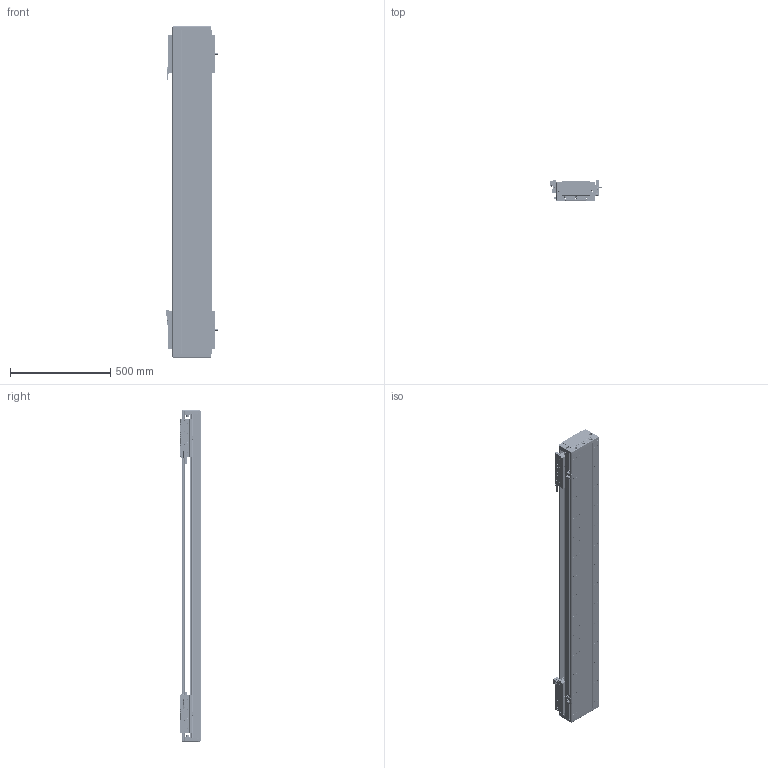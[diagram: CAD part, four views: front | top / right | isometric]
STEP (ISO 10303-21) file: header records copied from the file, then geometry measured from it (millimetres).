
FILE_DESCRIPTION (( 'STEP AP203' ), '1' );
FILE_NAME ('DA-C195-2-C2-T1160-C010-0.2 眻盄萇儂.STEP', '2025-08-14T02:03:10', ( '' ), ( '' ), 'SwSTEP 2.0', 'SolidWorks 2019', '' );
FILE_SCHEMA (( 'CONFIG_CONTROL_DESIGN' ));
Length unit declared in the file: millimetre
Products named in the file (16): IU-CU195-L-00 菁釱(L1620); MS200 棠掑喜S315-T240; DKW168-HXJ-ZJ-00 笢潔滅袉砎蝶; DA-C195-2-C2-T1160-C010-0.2 眻盄萇儂; CU195-C2賑輸-俋楷; PM-Y65嫖萇羲壽郪璃; DA195-DG-H-00  端盖（压铸镂空版）; PM-T45ㄗ侂狟ㄘ; LMT黍杅芛; 66156-0001-003-00 裔啣; 葩璃 DA95-GT-T-00; 66156-0001-005-00 光电感应片(默认); IU-CU195-L 菁釱絳寢; DKW-GYP-ZJ-00 笢潔嫖萇覜茼え; DKW-KGZ-ZJ-00 中间光电开关支架; DA95-HXJ-00 遣喳砎蝶
Assembly tree (28 placements, depth 3):
  DA-C195-2-C2-T1160-C010-0.2 眻盄萇儂
    IU-CU195-L 菁釱絳寢
      IU-CU195-L-00 菁釱(L1620)
      葩璃 DA95-GT-T-00  x4
    LMT黍杅芛  x2
    MS200 棠掑喜S315-T240
    PM-T45ㄗ侂狟ㄘ  x4
    66156-0001-005-00 光电感应片(默认)  x2
    DA195-DG-H-00  端盖（压铸镂空版）  x2
    DA95-HXJ-00 遣喳砎蝶  x4
    PM-Y65嫖萇羲壽郪璃
    66156-0001-003-00 裔啣
    DKW168-HXJ-ZJ-00 笢潔滅袉砎蝶
    DKW-GYP-ZJ-00 笢潔嫖萇覜茼え
    DKW-KGZ-ZJ-00 中间光电开关支架
    CU195-C2賑輸-俋楷  x2
Bounding box: 258.2 x 115.6 x 1660 mm (x, y, z)
Volume: 12293799.4 mm3; surface area: 3455318.3 mm2
Topology: 106 solids, 242 shells, 8078 faces, 20544 edges, 12531 vertices
Faces by surface type: cylinder 3394, plane 2868, cone 946, bspline 718, torus 80, sphere 72
Entity records: 166415 total; most frequent: CARTESIAN_POINT 51828, ORIENTED_EDGE 24090, DIRECTION 22666, EDGE_CURVE 12045, AXIS2_PLACEMENT_3D 8291, VERTEX_POINT 7646, VECTOR 6084, LINE 6084
